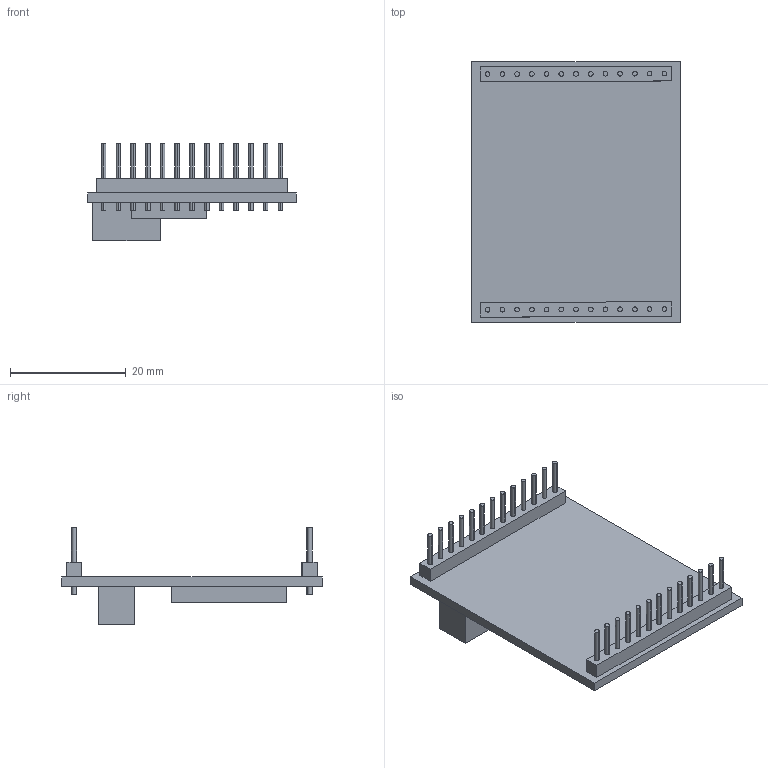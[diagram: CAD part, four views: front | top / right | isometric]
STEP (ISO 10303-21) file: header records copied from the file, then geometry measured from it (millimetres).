
FILE_DESCRIPTION((''),'2;1');
FILE_NAME('NE-4100T_ASM','2013-11-10T',('Vincent_Huang'),(''),'PRO/ENGINEER BY PARAMETRIC TECHNOLOGY CORPORATION, 2004320','PRO/ENGINEER BY PARAMETRIC TECHNOLOGY CORPORATION, 2004320','');
FILE_SCHEMA(('CONFIG_CONTROL_DESIGN'));
Length unit declared in the file: millimetre
Products named in the file (3): NE-4100T; 1126_HR_DIP180M_1X13; NE-4100T_ASM
Assembly tree (3 placements, depth 2):
  NE-4100T_ASM
    NE-4100T
    1126_HR_DIP180M_1X13  x2
Bounding box: 36 x 45 x 16.74 mm (x, y, z)
Volume: 4349 mm3; surface area: 5221 mm2
Topology: 3 solids, 3 shells, 192 faces, 396 edges, 264 vertices
Faces by surface type: cylinder 112, plane 80
Entity records: 3069 total; most frequent: DIRECTION 576, CARTESIAN_POINT 494, ORIENTED_EDGE 456, AXIS2_PLACEMENT_3D 234, EDGE_CURVE 228, VERTEX_POINT 152, EDGE_LOOP 144, CIRCLE 120
